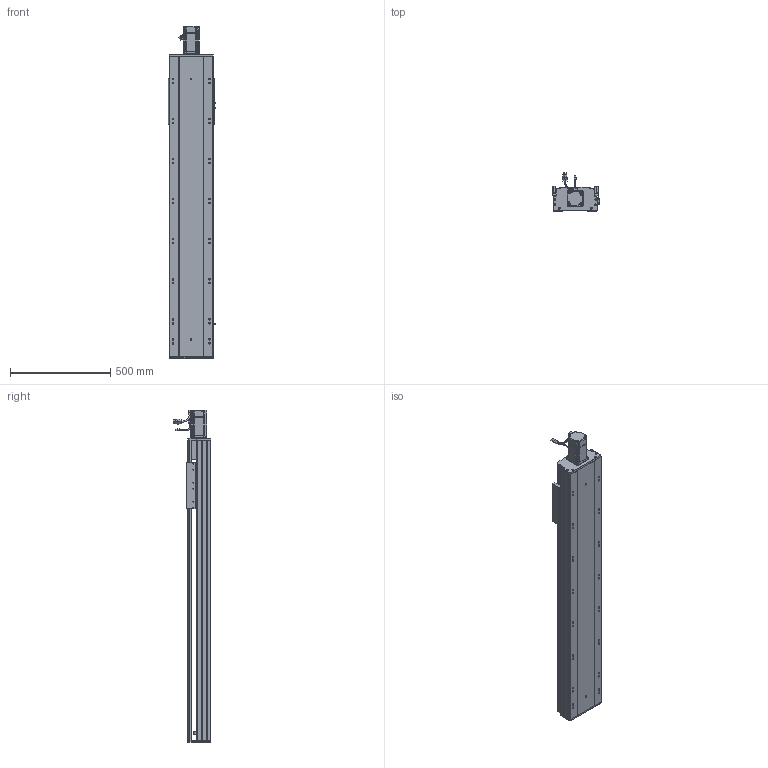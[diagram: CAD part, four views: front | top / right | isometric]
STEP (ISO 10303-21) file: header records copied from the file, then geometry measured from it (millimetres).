
FILE_DESCRIPTION (( 'STEP AP203' ), '1' );
FILE_NAME ('RY220-L2525-300-MK.SLDASM_1100.step', '2022-07-04T02:57:59', ( '' ), ( '' ), 'SwSTEP 2.0', 'SolidWorks 2016', '' );
FILE_SCHEMA (( 'CONFIG_CONTROL_DESIGN' ));
Length unit declared in the file: millimetre
Products named in the file (12): RY220菁釱MK-300_1100; RY220半封闭25-32螺母铝滑块; RY220綴裔啣; RY220-300-奻裔啣-MK_1100; RY220ヶ裔啣; 滅袉蝶18-12; RY220电机支撑座FK20（PCD90M6）; 覜茼ん672; RY220-俋离672覜茼んえ; RY220-L2525-300-MK.SLDASM_1100; 滅袉蝶18-15; 怢湛750W_ECMA-CX0807ES
Assembly tree (15 placements, depth 2):
  RY220-L2525-300-MK.SLDASM_1100
    RY220菁釱MK-300_1100
    RY220电机支撑座FK20（PCD90M6）
    怢湛750W_ECMA-CX0807ES
    滅袉蝶18-12  x2
    RY220ヶ裔啣
    RY220綴裔啣
    覜茼ん672  x3
    RY220半封闭25-32螺母铝滑块
    RY220-300-奻裔啣-MK_1100
    RY220-俋离672覜茼んえ
    滅袉蝶18-15  x2
Bounding box: 238.7 x 187.27 x 1658.3 mm (x, y, z)
Volume: 13017498.2 mm3; surface area: 3643697.7 mm2
Topology: 16 solids, 16 shells, 2244 faces, 6222 edges, 3924 vertices
Faces by surface type: cylinder 1018, plane 907, cone 257, bspline 36, sphere 16, torus 10
Entity records: 73838 total; most frequent: CARTESIAN_POINT 20991, ORIENTED_EDGE 10968, DIRECTION 10391, EDGE_CURVE 5484, AXIS2_PLACEMENT_3D 3665, VERTEX_POINT 3580, VECTOR 3061, LINE 3061
